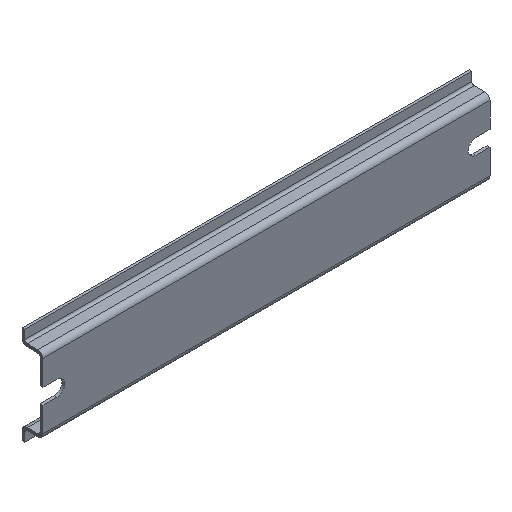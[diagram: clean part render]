
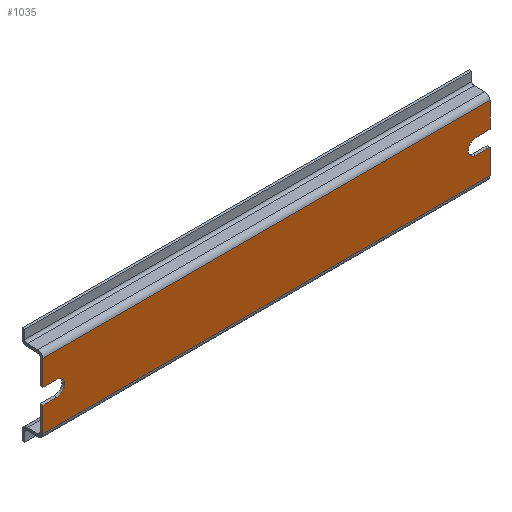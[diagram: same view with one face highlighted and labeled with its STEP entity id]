
A CAD part, isometric view. The second image highlights one B-rep face of the part: STEP entity #1035.
In plain terms, the highlighted planar face has unit normal (0, -1, 0).
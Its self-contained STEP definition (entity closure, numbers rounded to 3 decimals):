
#289=DIRECTION('',(0.,0.,-1.));
#290=VECTOR('',#289,8.95);
#291=CARTESIAN_POINT('',(-80.,0.,11.7));
#292=LINE('',#291,#290);
#303=DIRECTION('',(0.,0.,-1.));
#304=VECTOR('',#303,8.95);
#305=CARTESIAN_POINT('',(-80.,0.,-2.75));
#306=LINE('',#305,#304);
#384=DIRECTION('',(-1.,0.,0.));
#385=VECTOR('',#384,5.);
#386=CARTESIAN_POINT('',(80.,0.,-2.75));
#387=LINE('',#386,#385);
#391=DIRECTION('',(1.,0.,0.));
#392=VECTOR('',#391,5.);
#393=CARTESIAN_POINT('',(-80.,0.,-2.75));
#394=LINE('',#393,#392);
#398=CARTESIAN_POINT('',(-75.,0.,0.));
#399=DIRECTION('',(0.,1.,0.));
#400=DIRECTION('',(0.,0.,1.));
#401=AXIS2_PLACEMENT_3D('',#398,#399,#400);
#406=DIRECTION('',(1.,0.,0.));
#407=VECTOR('',#406,5.);
#408=CARTESIAN_POINT('',(-80.,0.,2.75));
#409=LINE('',#408,#407);
#413=DIRECTION('',(1.,0.,0.));
#414=VECTOR('',#413,160.);
#415=CARTESIAN_POINT('',(-80.,0.,11.7));
#416=LINE('',#415,#414);
#420=DIRECTION('',(-1.,0.,0.));
#421=VECTOR('',#420,5.);
#422=CARTESIAN_POINT('',(80.,0.,2.75));
#423=LINE('',#422,#421);
#427=CARTESIAN_POINT('',(75.,0.,0.));
#428=DIRECTION('',(0.,1.,0.));
#429=DIRECTION('',(0.,0.,-1.));
#430=AXIS2_PLACEMENT_3D('',#427,#428,#429);
#516=DIRECTION('',(0.,0.,-1.));
#517=VECTOR('',#516,8.95);
#518=CARTESIAN_POINT('',(80.,0.,-2.75));
#519=LINE('',#518,#517);
#530=DIRECTION('',(0.,0.,-1.));
#531=VECTOR('',#530,8.95);
#532=CARTESIAN_POINT('',(80.,0.,11.7));
#533=LINE('',#532,#531);
#809=DIRECTION('',(1.,0.,0.));
#810=VECTOR('',#809,160.);
#811=CARTESIAN_POINT('',(-80.,0.,-11.7));
#812=LINE('',#811,#810);
#824=CARTESIAN_POINT('',(-80.,0.,11.7));
#825=VERTEX_POINT('',#824);
#826=CARTESIAN_POINT('',(-80.,0.,-11.7));
#828=VERTEX_POINT('',#826);
#864=CARTESIAN_POINT('',(80.,0.,11.7));
#865=VERTEX_POINT('',#864);
#866=CARTESIAN_POINT('',(80.,0.,-11.7));
#868=VERTEX_POINT('',#866);
#896=CARTESIAN_POINT('',(-80.,0.,2.75));
#898=VERTEX_POINT('',#896);
#900=CARTESIAN_POINT('',(-80.,0.,-2.75));
#902=VERTEX_POINT('',#900);
#904=CARTESIAN_POINT('',(80.,0.,-2.75));
#906=VERTEX_POINT('',#904);
#908=CARTESIAN_POINT('',(80.,0.,2.75));
#910=VERTEX_POINT('',#908);
#912=CARTESIAN_POINT('',(75.,0.,-2.75));
#913=VERTEX_POINT('',#912);
#914=CARTESIAN_POINT('',(75.,0.,2.75));
#915=VERTEX_POINT('',#914);
#916=CARTESIAN_POINT('',(-75.,0.,2.75));
#917=VERTEX_POINT('',#916);
#918=CARTESIAN_POINT('',(-75.,0.,-2.75));
#919=VERTEX_POINT('',#918);
#1007=CARTESIAN_POINT('',(-80.,0.,11.7));
#1008=DIRECTION('',(0.,-1.,0.));
#1009=DIRECTION('',(0.,0.,-1.));
#1010=AXIS2_PLACEMENT_3D('',#1007,#1008,#1009);
#1011=PLANE('',#1010);
#1013=ORIENTED_EDGE('',*,*,#1012,.F.);
#1015=ORIENTED_EDGE('',*,*,#1014,.T.);
#1017=ORIENTED_EDGE('',*,*,#1016,.F.);
#1018=ORIENTED_EDGE('',*,*,#967,.F.);
#1020=ORIENTED_EDGE('',*,*,#1019,.T.);
#1022=ORIENTED_EDGE('',*,*,#1021,.F.);
#1023=ORIENTED_EDGE('',*,*,#998,.F.);
#1024=ORIENTED_EDGE('',*,*,#955,.F.);
#1026=ORIENTED_EDGE('',*,*,#1025,.T.);
#1028=ORIENTED_EDGE('',*,*,#1027,.T.);
#1030=ORIENTED_EDGE('',*,*,#1029,.T.);
#1032=ORIENTED_EDGE('',*,*,#1031,.F.);
#1033=EDGE_LOOP('',(#1013,#1015,#1017,#1018,#1020,#1022,#1023,#1024,#1026,#1028,
#1030,#1032));
#1034=FACE_OUTER_BOUND('',#1033,.F.);
#1035=ADVANCED_FACE('',(#1034),#1011,.T.);
#402=CIRCLE('',#401,2.75);
#431=CIRCLE('',#430,2.75);
#955=EDGE_CURVE('',#825,#898,#292,.T.);
#967=EDGE_CURVE('',#902,#828,#306,.T.);
#998=EDGE_CURVE('',#898,#917,#409,.T.);
#1012=EDGE_CURVE('',#906,#913,#387,.T.);
#1014=EDGE_CURVE('',#906,#868,#519,.T.);
#1016=EDGE_CURVE('',#828,#868,#812,.T.);
#1019=EDGE_CURVE('',#902,#919,#394,.T.);
#1021=EDGE_CURVE('',#917,#919,#402,.T.);
#1025=EDGE_CURVE('',#825,#865,#416,.T.);
#1027=EDGE_CURVE('',#865,#910,#533,.T.);
#1029=EDGE_CURVE('',#910,#915,#423,.T.);
#1031=EDGE_CURVE('',#913,#915,#431,.T.);
